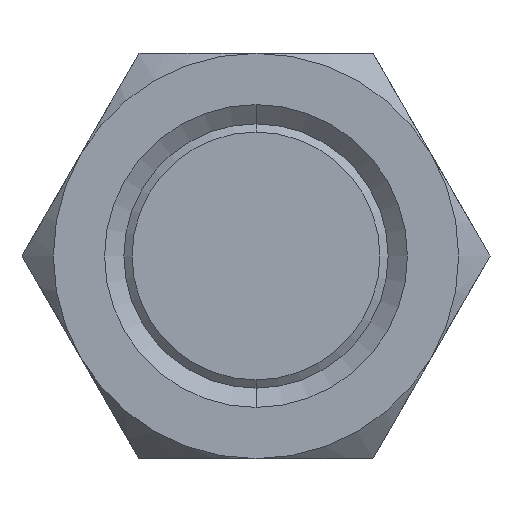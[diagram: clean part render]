
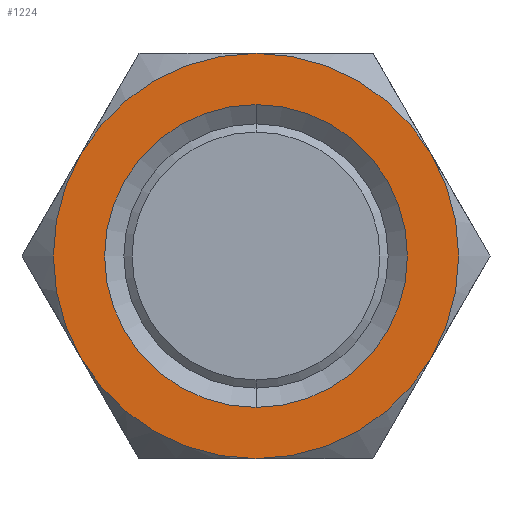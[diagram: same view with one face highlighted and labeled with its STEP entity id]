
A CAD part, front view. The second image highlights one B-rep face of the part: STEP entity #1224.
In plain terms, the highlighted planar face has unit normal (0, -1, 0).
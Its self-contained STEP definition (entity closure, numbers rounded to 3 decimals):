
#1117 = VERTEX_POINT ( 'NONE', #3389 ) ;
#1147 = VERTEX_POINT ( 'NONE', #3429 ) ;
#1148 = VERTEX_POINT ( 'NONE', #3428 ) ;
#1149 = ORIENTED_EDGE ( 'NONE', *, *, #1150, .F. ) ;
#1150 = EDGE_CURVE ( 'NONE', #1151, #1147, #3427, .T. ) ;
#1151 = VERTEX_POINT ( 'NONE', #3421 ) ;
#1152 = ORIENTED_EDGE ( 'NONE', *, *, #1153, .F. ) ;
#1153 = EDGE_CURVE ( 'NONE', #1154, #1151, #3485, .T. ) ;
#1154 = VERTEX_POINT ( 'NONE', #3481 ) ;
#1172 = EDGE_CURVE ( 'NONE', #1117, #1173, #3515, .T. ) ;
#1173 = VERTEX_POINT ( 'NONE', #3510 ) ;
#1208 = ORIENTED_EDGE ( 'NONE', *, *, #1209, .F. ) ;
#1209 = EDGE_CURVE ( 'NONE', #1210, #1154, #3563, .T. ) ;
#1210 = VERTEX_POINT ( 'NONE', #3558 ) ;
#1211 = ORIENTED_EDGE ( 'NONE', *, *, #1212, .T. ) ;
#1212 = EDGE_CURVE ( 'NONE', #1210, #1213, #3556, .T. ) ;
#1213 = VERTEX_POINT ( 'NONE', #3610 ) ;
#1214 = ORIENTED_EDGE ( 'NONE', *, *, #1215, .F. ) ;
#1215 = EDGE_CURVE ( 'NONE', #1148, #1213, #3609, .T. ) ;
#1216 = EDGE_LOOP ( 'NONE', ( #1217, #1219 ) ) ;
#1217 = ORIENTED_EDGE ( 'NONE', *, *, #1218, .F. ) ;
#1218 = EDGE_CURVE ( 'NONE', #1173, #1117, #3604, .T. ) ;
#1219 = ORIENTED_EDGE ( 'NONE', *, *, #1172, .F. ) ;
#1224 = ADVANCED_FACE ( 'NONE', ( #3589, #3588 ), #3587, .F. ) ;
#1225 = EDGE_LOOP ( 'NONE', ( #1226, #1149, #1152, #1208, #1211, #1214 ) ) ;
#1226 = ORIENTED_EDGE ( 'NONE', *, *, #1227, .F. ) ;
#1227 = EDGE_CURVE ( 'NONE', #1147, #1148, #3582, .T. ) ;
#3389 = CARTESIAN_POINT ( 'NONE',  ( 0., 0., 17.186 ) ) ;
#3419 = CARTESIAN_POINT ( 'NONE',  ( 0., 0., 0. ) ) ;
#3421 = CARTESIAN_POINT ( 'NONE',  ( -19.919, 0., 11.5 ) ) ;
#3422 = DIRECTION ( 'NONE',  ( 0., 0., 1. ) ) ;
#3424 = DIRECTION ( 'NONE',  ( 0., 1., 0. ) ) ;
#3425 = CARTESIAN_POINT ( 'NONE',  ( 0., 0., 0. ) ) ;
#3426 = AXIS2_PLACEMENT_3D ( 'NONE', #3425, #3424, #3422 ) ;
#3427 = CIRCLE ( 'NONE', #3426, 23. ) ;
#3428 = CARTESIAN_POINT ( 'NONE',  ( 19.919, 0., 11.5 ) ) ;
#3429 = CARTESIAN_POINT ( 'NONE',  ( 0., 0., 23. ) ) ;
#3481 = CARTESIAN_POINT ( 'NONE',  ( -19.919, 0., -11.5 ) ) ;
#3482 = DIRECTION ( 'NONE',  ( 0., 0., 1. ) ) ;
#3483 = DIRECTION ( 'NONE',  ( 0., 1., 0. ) ) ;
#3484 = AXIS2_PLACEMENT_3D ( 'NONE', #3419, #3483, #3482 ) ;
#3485 = CIRCLE ( 'NONE', #3484, 23. ) ;
#3510 = CARTESIAN_POINT ( 'NONE',  ( 0., 0., -17.186 ) ) ;
#3511 = DIRECTION ( 'NONE',  ( 0., 0., -1. ) ) ;
#3512 = DIRECTION ( 'NONE',  ( 0., -1., 0. ) ) ;
#3513 = CARTESIAN_POINT ( 'NONE',  ( 0., 0., 0. ) ) ;
#3514 = AXIS2_PLACEMENT_3D ( 'NONE', #3513, #3512, #3511 ) ;
#3515 = CIRCLE ( 'NONE', #3514, 17.186 ) ;
#3552 = DIRECTION ( 'NONE',  ( 0., 0., -1. ) ) ;
#3553 = DIRECTION ( 'NONE',  ( 0., -1., 0. ) ) ;
#3554 = CARTESIAN_POINT ( 'NONE',  ( 0., 0., 0. ) ) ;
#3555 = AXIS2_PLACEMENT_3D ( 'NONE', #3554, #3553, #3552 ) ;
#3556 = CIRCLE ( 'NONE', #3555, 23. ) ;
#3558 = CARTESIAN_POINT ( 'NONE',  ( 0., 0., -23. ) ) ;
#3559 = DIRECTION ( 'NONE',  ( 0., 0., 1. ) ) ;
#3560 = DIRECTION ( 'NONE',  ( 0., 1., 0. ) ) ;
#3561 = CARTESIAN_POINT ( 'NONE',  ( 0., 0., 0. ) ) ;
#3562 = AXIS2_PLACEMENT_3D ( 'NONE', #3561, #3560, #3559 ) ;
#3563 = CIRCLE ( 'NONE', #3562, 23. ) ;
#3582 = CIRCLE ( 'NONE', #3640, 23. ) ;
#3583 = DIRECTION ( 'NONE',  ( 0., 0., 1. ) ) ;
#3584 = DIRECTION ( 'NONE',  ( 0., 1., 0. ) ) ;
#3585 = CARTESIAN_POINT ( 'NONE',  ( 26.558, 0., 0. ) ) ;
#3586 = AXIS2_PLACEMENT_3D ( 'NONE', #3585, #3584, #3583 ) ;
#3587 = PLANE ( 'NONE',  #3586 ) ;
#3588 = FACE_BOUND ( 'NONE', #1216, .T. ) ;
#3589 = FACE_OUTER_BOUND ( 'NONE', #1225, .T. ) ;
#3600 = DIRECTION ( 'NONE',  ( 0., 0., -1. ) ) ;
#3601 = DIRECTION ( 'NONE',  ( 0., -1., 0. ) ) ;
#3602 = CARTESIAN_POINT ( 'NONE',  ( 0., 0., 0. ) ) ;
#3603 = AXIS2_PLACEMENT_3D ( 'NONE', #3602, #3601, #3600 ) ;
#3604 = CIRCLE ( 'NONE', #3603, 17.186 ) ;
#3605 = DIRECTION ( 'NONE',  ( 0., 0., 1. ) ) ;
#3606 = DIRECTION ( 'NONE',  ( 0., 1., 0. ) ) ;
#3607 = CARTESIAN_POINT ( 'NONE',  ( 0., 0., 0. ) ) ;
#3608 = AXIS2_PLACEMENT_3D ( 'NONE', #3607, #3606, #3605 ) ;
#3609 = CIRCLE ( 'NONE', #3608, 23. ) ;
#3610 = CARTESIAN_POINT ( 'NONE',  ( 19.919, 0., -11.5 ) ) ;
#3637 = DIRECTION ( 'NONE',  ( 0., 0., 1. ) ) ;
#3638 = DIRECTION ( 'NONE',  ( 0., 1., 0. ) ) ;
#3639 = CARTESIAN_POINT ( 'NONE',  ( 0., 0., 0. ) ) ;
#3640 = AXIS2_PLACEMENT_3D ( 'NONE', #3639, #3638, #3637 ) ;
